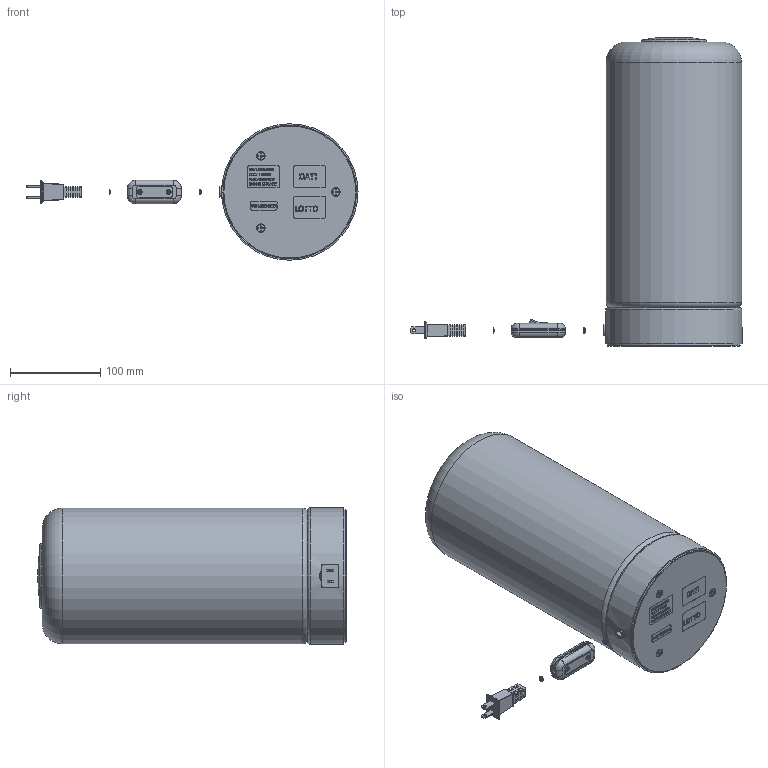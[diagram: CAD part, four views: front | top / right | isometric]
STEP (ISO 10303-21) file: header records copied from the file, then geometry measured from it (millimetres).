
FILE_DESCRIPTION(/* description */ ('STACKING T 30x15 US'),/* implementation_level */ '2;1');
FILE_NAME(/* name */ '343T0LD0-0USDP - STACKING T 30 USA.stp',/* time_stamp */ '2026-01-28T11:39:05+01:00',/* author */ ('marco.prandina'),/* organization */ (''),/* preprocessor_version */ 'ST-DEVELOPER v20.1',/* originating_system */ 'Autodesk Inventor 2026',/* authorisation */ '');
FILE_SCHEMA (('AUTOMOTIVE_DESIGN { 1 0 10303 214 3 1 1 }'));
Length unit declared in the file: millimetre
Products named in the file (44): 343T0LD0-0USDP; 00343C501; 00343C406-A; C010; K001; W029; W031; 00343C397; 00343C404; 00343C398; 00343C407-A; 00343C410; 343C670; 343C101; 343C101_1; X0065-030; X0064-006; 343C050; 343C100; 343C150; B006; W024; K002; VITE TSP M4X6 ZN; VITE TCB M3X8 UNI7687 ZB; VITE TCB M4X8 UNI7687 BRUNITA; VITE AUTOFIL. TB TORX ISO 14585-ST4,2-38-C; VITE TCB M3X10 UNI7687 ZB; VITE TSPIC M4X10 UNI7688; B001-NRO; B002-TRS; X0001; RONDELLA DENTELLATA ESTERNA M3 UNI8842A; VITE TCC BOMBATA M3X6 UNI7687; D003; S005; S002; W012; W011; A003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
Assembly tree (81 placements, depth 3):
  343T0LD0-0USDP
    00343C501
      00343C406-A
      C010  x25
      K001
      W029
      W031
    00343C397
    00343C404
    00343C398
    00343C407-A
    00343C410
    343C670
    343C101
      343C101_1
      X0065-030  x3
      X0064-006  x2
    343C050
    343C100
    343C150
    B006
    W024
    K002
    VITE TSP M4X6 ZN
    VITE TCB M3X8 UNI7687 ZB  x2
    VITE TCB M4X8 UNI7687 BRUNITA
    VITE AUTOFIL. TB TORX ISO 14585-ST4,2-38-C  x2
    VITE TCB M3X10 UNI7687 ZB  x3
    VITE TSPIC M4X10 UNI7688  x3
    RONDELLA DENTELLATA ESTERNA M3 UNI8842A  x5
    B001-NRO
    B002-TRS
    X0001
    VITE TCC BOMBATA M3X6 UNI7687  x2
    D003
      S005
      S002
      W012
      W011
    A003
    Z016-A
    Z016-B
    Z016-D
    Z017-Q
Bounding box: 367.45 x 342.01 x 151 mm (x, y, z)
Volume: 1129048.9 mm3; surface area: 750660 mm2
Topology: 83 solids, 84 shells, 7188 faces, 18772 edges, 12148 vertices
Faces by surface type: plane 4213, cylinder 1573, bspline 935, cone 273, torus 104, sphere 90
Full cylindrical faces by diameter (mm): 1 x5, 1.8 x1, 1.9 x1, 2 x11, 2.459 x7, 2.75 x7, 3 x10, 3.2 x8, 3.242 x5, 3.5 x5, 3.571 x4, 3.65 x1, 4 x5, 4.2 x6, 4.5 x5, 5 x4, 5.3 x2, 5.5 x3, 5.917 x1, 6 x4, 6.17 x1, 6.35 x1, 6.5 x2, 6.8 x1, 7 x4, 7.5 x3, 8.4 x4, 9 x3, 9.5 x3, 10 x1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
Entity records: 204501 total; most frequent: CARTESIAN_POINT 74281, ORIENTED_EDGE 27776, DIRECTION 24303, EDGE_CURVE 13888, VERTEX_POINT 8937, LINE 8545, VECTOR 8545, AXIS2_PLACEMENT_3D 7879
